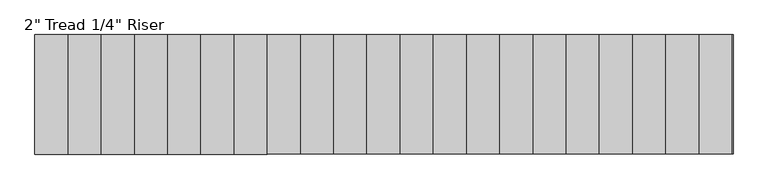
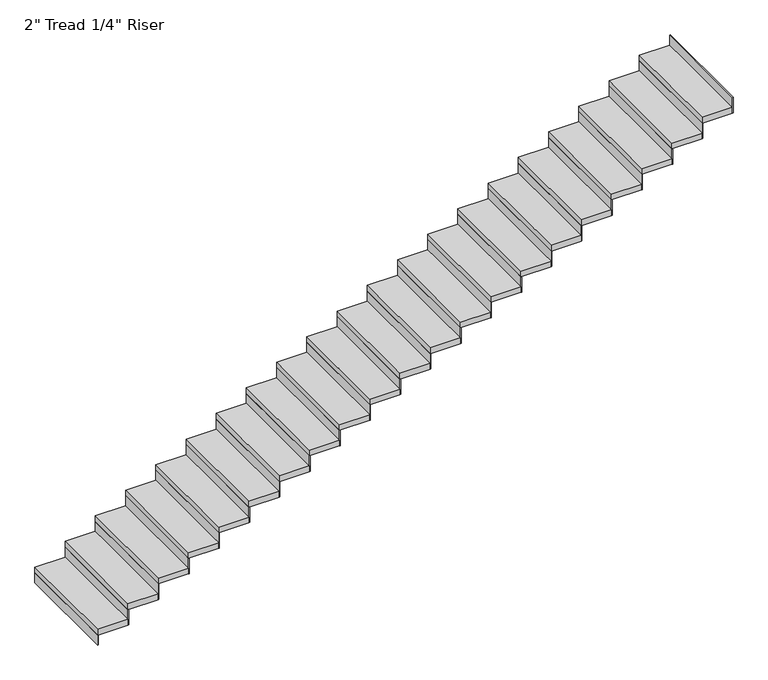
"""IFC4 building model written with IfcOpenShell, lengths in millimetres: stair flight geometry."""

from ifc_helpers import new_model, si_unit, frame, origin, origin_with_axes, place, context, project, spatial, polyline, outline, extrude, source, transform, mapped, element, save


def stair_flight_8c2f85dd(model_context):
    return source(origin(), model_context, "Body", "SweptSolid", [
        extrude(outline(polyline([(-1725.3713318, -1704.035031), (-1731.7213318, -1704.035031), (-1731.7213318, -789.635031), (-1725.3713318, -789.635031), (-1725.3713318, -1704.035031)])), origin_with_axes(), (0.0, 0.0, 1.0), 87.7454545),
        extrude(outline(polyline([(-1477.7213318, -789.635031), (-1477.7213318, -1704.035031), (-1731.7213318, -1704.035031), (-1731.7213318, -789.635031), (-1477.7213318, -789.635031)])), frame((0.0, 0.0, 87.7454545), z_axis=(0.0, 0.0, 1.0), x_axis=(1.0, 0.0, 0.0)), (0.0, 0.0, 1.0), 50.8),
        extrude(outline(polyline([(-1471.3713318, -1704.035031), (-1477.7213318, -1704.035031), (-1477.7213318, -789.635031), (-1471.3713318, -789.635031), (-1471.3713318, -1704.035031)])), frame((0.0, 0.0, 87.7454545), z_axis=(0.0, 0.0, 1.0), x_axis=(1.0, 0.0, 0.0)), (0.0, 0.0, 1.0), 138.5454545),
        extrude(outline(polyline([(-1223.7213318, -789.635031), (-1223.7213318, -1704.035031), (-1477.7213318, -1704.035031), (-1477.7213318, -789.635031), (-1223.7213318, -789.635031)])), frame((0.0, 0.0, 226.2909091), z_axis=(0.0, 0.0, 1.0), x_axis=(1.0, 0.0, 0.0)), (0.0, 0.0, 1.0), 50.8),
        extrude(outline(polyline([(-1217.3713318, -1704.035031), (-1223.7213318, -1704.035031), (-1223.7213318, -789.635031), (-1217.3713318, -789.635031), (-1217.3713318, -1704.035031)])), frame((0.0, 0.0, 226.2909091), z_axis=(0.0, 0.0, 1.0), x_axis=(1.0, 0.0, 0.0)), (0.0, 0.0, 1.0), 138.5454545),
        extrude(outline(polyline([(-969.7213318, -789.635031), (-969.7213318, -1704.035031), (-1223.7213318, -1704.035031), (-1223.7213318, -789.635031), (-969.7213318, -789.635031)])), frame((0.0, 0.0, 364.8363636), z_axis=(0.0, 0.0, 1.0), x_axis=(1.0, 0.0, 0.0)), (0.0, 0.0, 1.0), 50.8),
        extrude(outline(polyline([(-963.3713318, -1704.035031), (-969.7213318, -1704.035031), (-969.7213318, -789.635031), (-963.3713318, -789.635031), (-963.3713318, -1704.035031)])), frame((0.0, 0.0, 364.8363636), z_axis=(0.0, 0.0, 1.0), x_axis=(1.0, 0.0, 0.0)), (0.0, 0.0, 1.0), 138.5454545),
        extrude(outline(polyline([(-715.7213318, -789.635031), (-715.7213318, -1704.035031), (-969.7213318, -1704.035031), (-969.7213318, -789.635031), (-715.7213318, -789.635031)])), frame((0.0, 0.0, 503.3818182), z_axis=(0.0, 0.0, 1.0), x_axis=(1.0, 0.0, 0.0)), (0.0, 0.0, 1.0), 50.8),
        extrude(outline(polyline([(-709.3713318, -1704.035031), (-715.7213318, -1704.035031), (-715.7213318, -789.635031), (-709.3713318, -789.635031), (-709.3713318, -1704.035031)])), frame((0.0, 0.0, 503.3818182), z_axis=(0.0, 0.0, 1.0), x_axis=(1.0, 0.0, 0.0)), (0.0, 0.0, 1.0), 138.5454545),
        extrude(outline(polyline([(-461.7213318, -789.635031), (-461.7213318, -1704.035031), (-715.7213318, -1704.035031), (-715.7213318, -789.635031), (-461.7213318, -789.635031)])), frame((0.0, 0.0, 641.9272727), z_axis=(0.0, 0.0, 1.0), x_axis=(1.0, 0.0, 0.0)), (0.0, 0.0, 1.0), 50.8),
        extrude(outline(polyline([(-455.3713318, -1704.035031), (-461.7213318, -1704.035031), (-461.7213318, -789.635031), (-455.3713318, -789.635031), (-455.3713318, -1704.035031)])), frame((0.0, 0.0, 641.9272727), z_axis=(0.0, 0.0, 1.0), x_axis=(1.0, 0.0, 0.0)), (0.0, 0.0, 1.0), 138.5454545),
        extrude(outline(polyline([(-207.7213318, -789.635031), (-207.7213318, -1704.035031), (-461.7213318, -1704.035031), (-461.7213318, -789.635031), (-207.7213318, -789.635031)])), frame((0.0, 0.0, 780.4727273), z_axis=(0.0, 0.0, 1.0), x_axis=(1.0, 0.0, 0.0)), (0.0, 0.0, 1.0), 50.8),
        extrude(outline(polyline([(-201.3713318, -1704.035031), (-207.7213318, -1704.035031), (-207.7213318, -789.635031), (-201.3713318, -789.635031), (-201.3713318, -1704.035031)])), frame((0.0, 0.0, 780.4727273), z_axis=(0.0, 0.0, 1.0), x_axis=(1.0, 0.0, 0.0)), (0.0, 0.0, 1.0), 138.5454545),
        extrude(outline(polyline([(46.2786682, -789.635031), (46.2786682, -1704.035031), (-207.7213318, -1704.035031), (-207.7213318, -789.635031), (46.2786682, -789.635031)])), frame((0.0, 0.0, 919.0181818), z_axis=(0.0, 0.0, 1.0), x_axis=(1.0, 0.0, 0.0)), (0.0, 0.0, 1.0), 50.8),
        extrude(outline(polyline([(52.6286682, -1704.035031), (46.2786682, -1704.035031), (46.2786682, -789.635031), (52.6286682, -789.635031), (52.6286682, -1704.035031)])), frame((0.0, 0.0, 919.0181818), z_axis=(0.0, 0.0, 1.0), x_axis=(1.0, 0.0, 0.0)), (0.0, 0.0, 1.0), 138.5454545),
        extrude(outline(polyline([(300.2786682, -789.635031), (300.2786682, -1704.035031), (46.2786682, -1704.035031), (46.2786682, -789.635031), (300.2786682, -789.635031)])), frame((0.0, 0.0, 1057.5636364), z_axis=(0.0, 0.0, 1.0), x_axis=(1.0, 0.0, 0.0)), (0.0, 0.0, 1.0), 50.8),
        extrude(outline(polyline([(306.6286682, -1704.035031), (300.2786682, -1704.035031), (300.2786682, -789.635031), (306.6286682, -789.635031), (306.6286682, -1704.035031)])), frame((0.0, 0.0, 1057.5636364), z_axis=(0.0, 0.0, 1.0), x_axis=(1.0, 0.0, 0.0)), (0.0, 0.0, 1.0), 138.5454545),
        extrude(outline(polyline([(554.2786682, -789.635031), (554.2786682, -1704.035031), (300.2786682, -1704.035031), (300.2786682, -789.635031), (554.2786682, -789.635031)])), frame((0.0, 0.0, 1196.1090909), z_axis=(0.0, 0.0, 1.0), x_axis=(1.0, 0.0, 0.0)), (0.0, 0.0, 1.0), 50.8),
        extrude(outline(polyline([(560.6286682, -1704.035031), (554.2786682, -1704.035031), (554.2786682, -789.635031), (560.6286682, -789.635031), (560.6286682, -1704.035031)])), frame((0.0, 0.0, 1196.1090909), z_axis=(0.0, 0.0, 1.0), x_axis=(1.0, 0.0, 0.0)), (0.0, 0.0, 1.0), 138.5454545),
        extrude(outline(polyline([(808.2786682, -789.635031), (808.2786682, -1704.035031), (554.2786682, -1704.035031), (554.2786682, -789.635031), (808.2786682, -789.635031)])), frame((0.0, 0.0, 1334.6545455), z_axis=(0.0, 0.0, 1.0), x_axis=(1.0, 0.0, 0.0)), (0.0, 0.0, 1.0), 50.8),
        extrude(outline(polyline([(814.6286682, -1704.035031), (808.2786682, -1704.035031), (808.2786682, -789.635031), (814.6286682, -789.635031), (814.6286682, -1704.035031)])), frame((0.0, 0.0, 1334.6545455), z_axis=(0.0, 0.0, 1.0), x_axis=(1.0, 0.0, 0.0)), (0.0, 0.0, 1.0), 138.5454545),
        extrude(outline(polyline([(1062.2786682, -789.635031), (1062.2786682, -1704.035031), (808.2786682, -1704.035031), (808.2786682, -789.635031), (1062.2786682, -789.635031)])), frame((0.0, 0.0, 1473.2), z_axis=(0.0, 0.0, 1.0), x_axis=(1.0, 0.0, 0.0)), (0.0, 0.0, 1.0), 50.8),
        extrude(outline(polyline([(1068.6286682, -1704.035031), (1062.2786682, -1704.035031), (1062.2786682, -789.635031), (1068.6286682, -789.635031), (1068.6286682, -1704.035031)])), frame((0.0, 0.0, 1473.2), z_axis=(0.0, 0.0, 1.0), x_axis=(1.0, 0.0, 0.0)), (0.0, 0.0, 1.0), 138.5454545),
        extrude(outline(polyline([(1316.2786682, -789.635031), (1316.2786682, -1704.035031), (1062.2786682, -1704.035031), (1062.2786682, -789.635031), (1316.2786682, -789.635031)])), frame((0.0, 0.0, 1611.7454545), z_axis=(0.0, 0.0, 1.0), x_axis=(1.0, 0.0, 0.0)), (0.0, 0.0, 1.0), 50.8),
        extrude(outline(polyline([(1322.6286682, -1704.035031), (1316.2786682, -1704.035031), (1316.2786682, -789.635031), (1322.6286682, -789.635031), (1322.6286682, -1704.035031)])), frame((0.0, 0.0, 1611.7454545), z_axis=(0.0, 0.0, 1.0), x_axis=(1.0, 0.0, 0.0)), (0.0, 0.0, 1.0), 138.5454545),
        extrude(outline(polyline([(1570.2786682, -789.635031), (1570.2786682, -1704.035031), (1316.2786682, -1704.035031), (1316.2786682, -789.635031), (1570.2786682, -789.635031)])), frame((0.0, 0.0, 1750.2909091), z_axis=(0.0, 0.0, 1.0), x_axis=(1.0, 0.0, 0.0)), (0.0, 0.0, 1.0), 50.8),
        extrude(outline(polyline([(1576.6286682, -1704.035031), (1570.2786682, -1704.035031), (1570.2786682, -789.635031), (1576.6286682, -789.635031), (1576.6286682, -1704.035031)])), frame((0.0, 0.0, 1750.2909091), z_axis=(0.0, 0.0, 1.0), x_axis=(1.0, 0.0, 0.0)), (0.0, 0.0, 1.0), 138.5454545),
        extrude(outline(polyline([(1824.2786682, -789.635031), (1824.2786682, -1704.035031), (1570.2786682, -1704.035031), (1570.2786682, -789.635031), (1824.2786682, -789.635031)])), frame((0.0, 0.0, 1888.8363636), z_axis=(0.0, 0.0, 1.0), x_axis=(1.0, 0.0, 0.0)), (0.0, 0.0, 1.0), 50.8),
        extrude(outline(polyline([(1830.6286682, -1704.035031), (1824.2786682, -1704.035031), (1824.2786682, -789.635031), (1830.6286682, -789.635031), (1830.6286682, -1704.035031)])), frame((0.0, 0.0, 1888.8363636), z_axis=(0.0, 0.0, 1.0), x_axis=(1.0, 0.0, 0.0)), (0.0, 0.0, 1.0), 138.5454545),
        extrude(outline(polyline([(2078.2786682, -789.635031), (2078.2786682, -1704.035031), (1824.2786682, -1704.035031), (1824.2786682, -789.635031), (2078.2786682, -789.635031)])), frame((0.0, 0.0, 2027.3818182), z_axis=(0.0, 0.0, 1.0), x_axis=(1.0, 0.0, 0.0)), (0.0, 0.0, 1.0), 50.8),
        extrude(outline(polyline([(2084.6286682, -1704.035031), (2078.2786682, -1704.035031), (2078.2786682, -789.635031), (2084.6286682, -789.635031), (2084.6286682, -1704.035031)])), frame((0.0, 0.0, 2027.3818182), z_axis=(0.0, 0.0, 1.0), x_axis=(1.0, 0.0, 0.0)), (0.0, 0.0, 1.0), 138.5454545),
        extrude(outline(polyline([(2332.2786682, -789.635031), (2332.2786682, -1704.035031), (2078.2786682, -1704.035031), (2078.2786682, -789.635031), (2332.2786682, -789.635031)])), frame((0.0, 0.0, 2165.9272727), z_axis=(0.0, 0.0, 1.0), x_axis=(1.0, 0.0, 0.0)), (0.0, 0.0, 1.0), 50.8),
        extrude(outline(polyline([(2338.6286682, -1704.035031), (2332.2786682, -1704.035031), (2332.2786682, -789.635031), (2338.6286682, -789.635031), (2338.6286682, -1704.035031)])), frame((0.0, 0.0, 2165.9272727), z_axis=(0.0, 0.0, 1.0), x_axis=(1.0, 0.0, 0.0)), (0.0, 0.0, 1.0), 138.5454545),
        extrude(outline(polyline([(2586.2786682, -789.635031), (2586.2786682, -1704.035031), (2332.2786682, -1704.035031), (2332.2786682, -789.635031), (2586.2786682, -789.635031)])), frame((0.0, 0.0, 2304.4727273), z_axis=(0.0, 0.0, 1.0), x_axis=(1.0, 0.0, 0.0)), (0.0, 0.0, 1.0), 50.8),
        extrude(outline(polyline([(2592.6286682, -1704.035031), (2586.2786682, -1704.035031), (2586.2786682, -789.635031), (2592.6286682, -789.635031), (2592.6286682, -1704.035031)])), frame((0.0, 0.0, 2304.4727273), z_axis=(0.0, 0.0, 1.0), x_axis=(1.0, 0.0, 0.0)), (0.0, 0.0, 1.0), 138.5454545),
        extrude(outline(polyline([(2840.2786682, -789.635031), (2840.2786682, -1704.035031), (2586.2786682, -1704.035031), (2586.2786682, -789.635031), (2840.2786682, -789.635031)])), frame((0.0, 0.0, 2443.0181818), z_axis=(0.0, 0.0, 1.0), x_axis=(1.0, 0.0, 0.0)), (0.0, 0.0, 1.0), 50.8),
        extrude(outline(polyline([(2846.6286682, -1704.035031), (2840.2786682, -1704.035031), (2840.2786682, -789.635031), (2846.6286682, -789.635031), (2846.6286682, -1704.035031)])), frame((0.0, 0.0, 2443.0181818), z_axis=(0.0, 0.0, 1.0), x_axis=(1.0, 0.0, 0.0)), (0.0, 0.0, 1.0), 138.5454545),
        extrude(outline(polyline([(3094.2786682, -789.635031), (3094.2786682, -1704.035031), (2840.2786682, -1704.035031), (2840.2786682, -789.635031), (3094.2786682, -789.635031)])), frame((0.0, 0.0, 2581.5636364), z_axis=(0.0, 0.0, 1.0), x_axis=(1.0, 0.0, 0.0)), (0.0, 0.0, 1.0), 50.8),
        extrude(outline(polyline([(3100.6286682, -1704.035031), (3094.2786682, -1704.035031), (3094.2786682, -789.635031), (3100.6286682, -789.635031), (3100.6286682, -1704.035031)])), frame((0.0, 0.0, 2581.5636364), z_axis=(0.0, 0.0, 1.0), x_axis=(1.0, 0.0, 0.0)), (0.0, 0.0, 1.0), 138.5454545),
        extrude(outline(polyline([(3348.2786682, -789.635031), (3348.2786682, -1704.035031), (3094.2786682, -1704.035031), (3094.2786682, -789.635031), (3348.2786682, -789.635031)])), frame((0.0, 0.0, 2720.1090909), z_axis=(0.0, 0.0, 1.0), x_axis=(1.0, 0.0, 0.0)), (0.0, 0.0, 1.0), 50.8),
        extrude(outline(polyline([(3354.6286682, -1704.035031), (3348.2786682, -1704.035031), (3348.2786682, -789.635031), (3354.6286682, -789.635031), (3354.6286682, -1704.035031)])), frame((0.0, 0.0, 2720.1090909), z_axis=(0.0, 0.0, 1.0), x_axis=(1.0, 0.0, 0.0)), (0.0, 0.0, 1.0), 138.5454545),
        extrude(outline(polyline([(3608.6286682, -1704.035031), (3602.2786682, -1704.035031), (3602.2786682, -789.635031), (3608.6286682, -789.635031), (3608.6286682, -1704.035031)])), frame((0.0, 0.0, 2858.6545455), z_axis=(0.0, 0.0, 1.0), x_axis=(1.0, 0.0, 0.0)), (0.0, 0.0, 1.0), 138.5454545),
        extrude(outline(polyline([(3602.2786682, -789.635031), (3602.2786682, -1704.035031), (3348.2786682, -1704.035031), (3348.2786682, -789.635031), (3602.2786682, -789.635031)])), frame((0.0, 0.0, 2858.6545455), z_axis=(0.0, 0.0, 1.0), x_axis=(1.0, 0.0, 0.0)), (0.0, 0.0, 1.0), 50.8),
    ])


if __name__ == "__main__":
    model = new_model("IFC4")
    model_context = context("Model", 3, world=origin())
    ifc_project = project(units=[si_unit("LENGTHUNIT", "METRE", prefix="MILLI")], contexts=[model_context])
    site = spatial("IfcSite", under=ifc_project)
    building = spatial("IfcBuilding", under=site)
    placement = place(None, origin())
    stair_flight_shape = stair_flight_8c2f85dd(model_context)
    element("IfcStairFlight", 1, ObjectType="2\" Tread 1/4\" Riser", at=placement, inside=building, context=model_context, shape_type="MappedRepresentation", body=[
        mapped(stair_flight_shape, transform((0.0, 0.0, 0.0), x_axis=(1.0, 0.0, 0.0), y_axis=(0.0, 1.0, 0.0), z_axis=(0.0, 0.0, 1.0))),
    ])
    save(model, "model.ifc")
